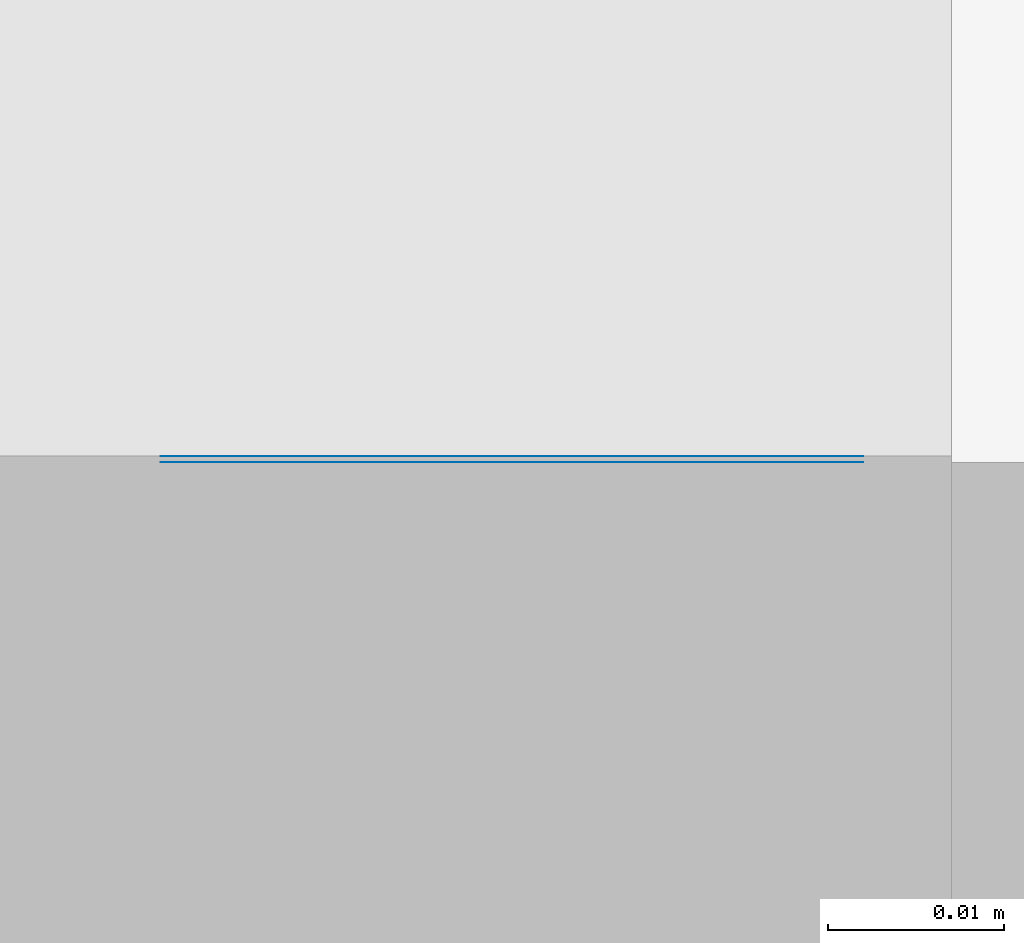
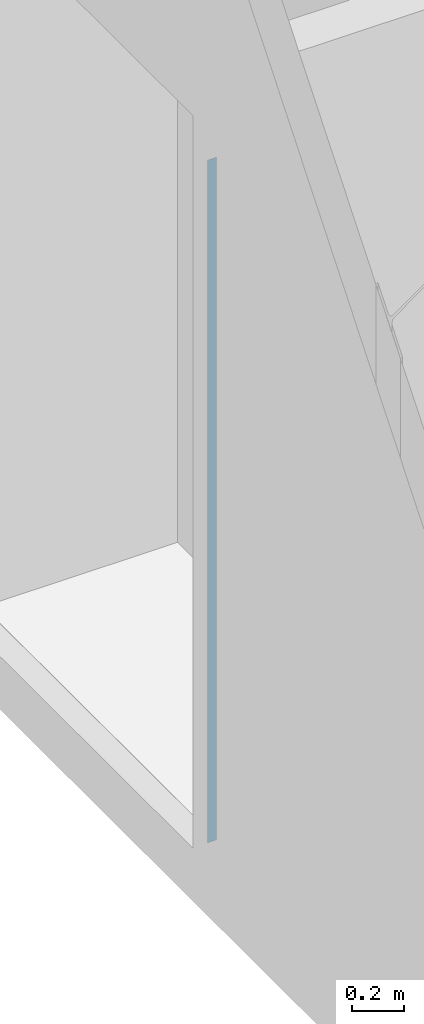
# One storey, part 69 of 137: 1 plate, 1 element without a shape of its own.
"""IFC2X3 building model written with IfcOpenShell, lengths in centimetres."""

from ifc_helpers import new_model, entity, si_unit, converted_unit, derived_unit, direction, frame, origin, place, context, subcontext, project, spatial, face_set, surface_model, source, transform, mapped, material, type_object, type_shapes, element, aggregate, save


model = new_model("IFC2X3")

# Units and contexts
model_context = context("Model", 3, precision=0.001, world=origin(), true_north=direction((6.12303176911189e-17, 1.0)))
body_context = subcontext(model_context, "Body", "Model", "MODEL_VIEW")
ifc_project = project(units=[si_unit("LENGTHUNIT", "METRE", prefix="CENTI"), si_unit("AREAUNIT", "SQUARE_METRE"), si_unit("VOLUMEUNIT", "CUBIC_METRE"), converted_unit("PLANEANGLEUNIT", "DEGREE", entity("IfcRatioMeasure", 0.0174532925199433), si_unit("PLANEANGLEUNIT", "RADIAN"), dimensions=[0, 0, 0, 0, 0, 0, 0]), si_unit("MASSUNIT", "GRAM", prefix="KILO"), si_unit("TIMEUNIT", "SECOND"), si_unit("FREQUENCYUNIT", "HERTZ"), si_unit("THERMODYNAMICTEMPERATUREUNIT", "DEGREE_CELSIUS"), derived_unit("THERMALTRANSMITTANCEUNIT", [(si_unit("MASSUNIT", "GRAM", prefix="KILO"), 1), (si_unit("THERMODYNAMICTEMPERATUREUNIT", "KELVIN"), -1), (si_unit("TIMEUNIT", "SECOND"), -3)]), derived_unit("VOLUMETRICFLOWRATEUNIT", [(si_unit("LENGTHUNIT", "METRE"), 3), (si_unit("TIMEUNIT", "SECOND"), -1)]), si_unit("ELECTRICCURRENTUNIT", "AMPERE"), si_unit("ELECTRICVOLTAGEUNIT", "VOLT"), si_unit("POWERUNIT", "WATT"), si_unit("FORCEUNIT", "NEWTON", prefix="KILO"), si_unit("ILLUMINANCEUNIT", "LUX"), si_unit("LUMINOUSFLUXUNIT", "LUMEN"), si_unit("LUMINOUSINTENSITYUNIT", "CANDELA"), derived_unit("USERDEFINED", [(si_unit("MASSUNIT", "GRAM", prefix="KILO"), -1), (si_unit("LENGTHUNIT", "METRE"), -2), (si_unit("TIMEUNIT", "SECOND"), 3), (si_unit("LUMINOUSFLUXUNIT", "LUMEN"), 1)]), derived_unit("LINEARVELOCITYUNIT", [(si_unit("LENGTHUNIT", "METRE"), 1), (si_unit("TIMEUNIT", "SECOND"), -1)]), si_unit("PRESSUREUNIT", "PASCAL"), derived_unit("USERDEFINED", [(si_unit("LENGTHUNIT", "METRE"), -2), (si_unit("MASSUNIT", "GRAM", prefix="KILO"), 1), (si_unit("TIMEUNIT", "SECOND"), -2)])], contexts=[model_context])

# Site, building, storey
site_placement = place(None, frame((8.62739174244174, -249.285249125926, 0.0)))
site = spatial("IfcSite", under=ifc_project, at=site_placement, Name="Default", CompositionType="ELEMENT")
building_placement = place(site_placement, origin())
building = spatial("IfcBuilding", under=site, at=building_placement, CompositionType="ELEMENT")
storey_placement = place(building_placement, origin())
storey = spatial("IfcBuildingStorey", under=building, at=storey_placement, Name="RDC", CompositionType="ELEMENT", Elevation=-8.82465566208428e-11)

# Curtain wall, plate
curtain_wall_type = type_object("IfcCurtainWallType", Name="Mur-rideau:Simple panneau", PredefinedType="NOTDEFINED")
curtain_wall_placement = place(storey_placement, origin())
curtain_wall = element("IfcCurtainWall", 1, at=curtain_wall_placement, inside=storey, type_object=curtain_wall_type, Name="Mur-rideau:Simple panneau", ObjectType="Mur-rideau:Simple panneau")
ifc_material = material(Name="Par défaut")
plate_type = type_object("IfcPlateType", Name="Plein", PredefinedType="CURTAIN_PANEL", material=ifc_material)
shared_shape = source(origin(), body_context, "Body", "SurfaceModel", [
    surface_model("IfcFaceBasedSurfaceModel", [(0.0362713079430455, 0.0, 320.0), (0.0362713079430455, 0.0, 0.0), (0.0362713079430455, 4.0, 0.0), (0.0362713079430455, 4.0, 320.0), (0.0, 0.0, 0.0), (0.0, 0.0, 320.0), (0.0, 4.0, 320.0), (0.0, 4.0, 0.0)], [face_set([[[0, 1, 2, 3]], [[4, 5, 6, 7]]])]),
])
type_shapes(plate_type, [shared_shape])
plate_placement = place(curtain_wall_placement, frame((846.404827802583, 3068.01647625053, 0.0), z_axis=(0.0, 0.0, 1.0), x_axis=(0.0, -1.0, 0.0)))
plate = element("IfcPlate", 2, at=plate_placement, type_object=plate_type, material=ifc_material, Name="Panneau système:Plein", ObjectType="Plein", context=body_context, shape_type="MappedRepresentation", body=[
    mapped(shared_shape, transform((0.0, 0.0, 0.0), scale=1.0)),
])
aggregate(curtain_wall, [plate])

save(model, "model.ifc")
